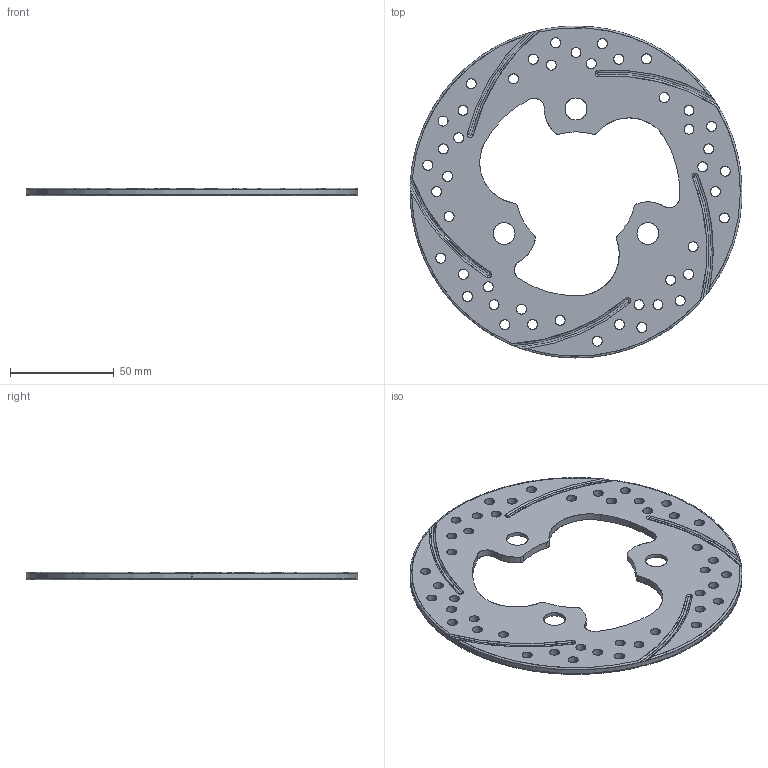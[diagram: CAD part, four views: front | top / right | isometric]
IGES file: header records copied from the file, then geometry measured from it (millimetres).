
Start section: SolidWorks IGES file using analytic representation for surfaces
Bounding box: 160 x 160 x 3.8 mm (x, y, z)
Surface area: 33058.4 mm2 (no closed solid volume)
Topology: 0 solids, 0 shells, 202 faces, 5239 edges, 5239 vertices
Faces by surface type: revolution 138, bspline 64
